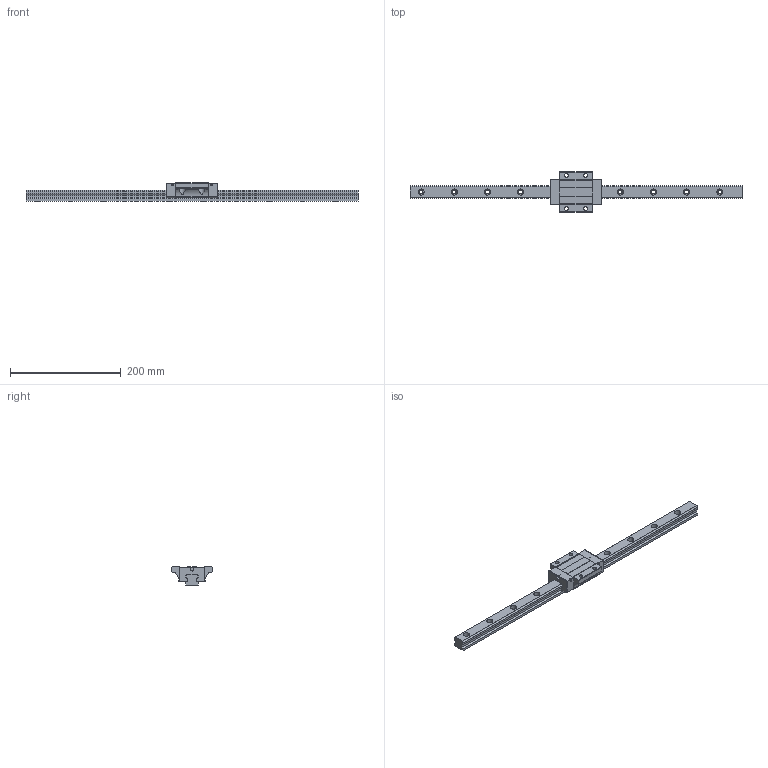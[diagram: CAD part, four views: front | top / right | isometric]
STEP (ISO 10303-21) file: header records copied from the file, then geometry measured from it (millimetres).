
FILE_DESCRIPTION (( 'STEP AP203' ), '1' );
FILE_NAME ('TRS25FN-WW.STEP', '2024-05-21T07:59:41', ( '' ), ( '' ), 'SwSTEP 2.0', 'SolidWorks 2022', '' );
FILE_SCHEMA (( 'CONFIG_CONTROL_DESIGN' ));
Length unit declared in the file: millimetre
Products named in the file (1): TRS25FN-WW
Bounding box: 600 x 73 x 33 mm (x, y, z)
Volume: 337327.4 mm3; surface area: 81770.7 mm2
Topology: 2 solids, 2 shells, 230 faces, 614 edges, 400 vertices
Faces by surface type: cylinder 126, plane 100, sphere 4
Entity records: 7990 total; most frequent: CARTESIAN_POINT 1972, DIRECTION 1274, ORIENTED_EDGE 1220, EDGE_CURVE 610, AXIS2_PLACEMENT_3D 459, VERTEX_POINT 400, LINE 356, VECTOR 356
